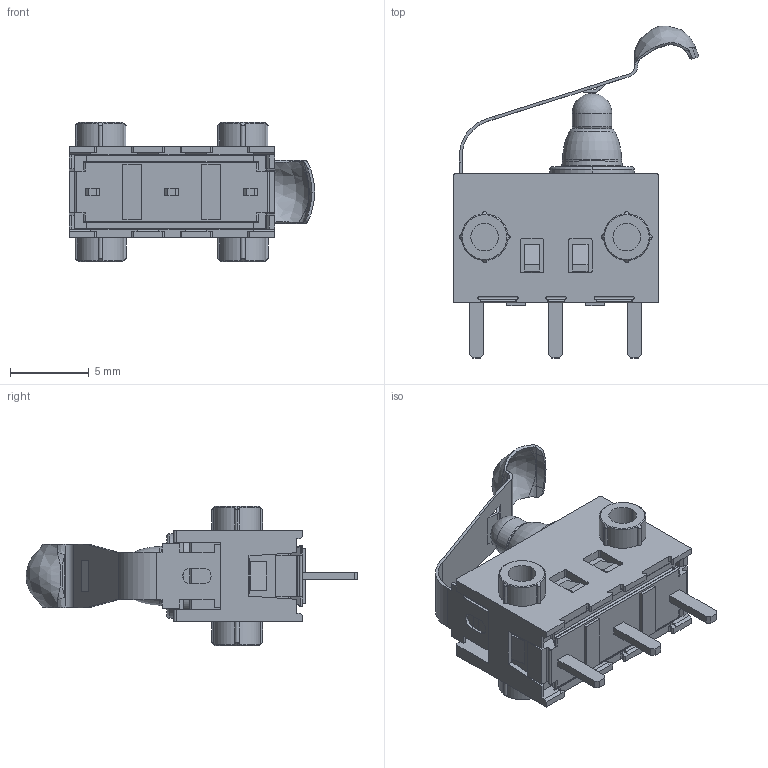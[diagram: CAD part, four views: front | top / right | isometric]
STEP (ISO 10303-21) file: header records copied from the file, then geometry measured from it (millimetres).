
FILE_DESCRIPTION (( 'STEP AP214' ), '1' );
FILE_NAME ('SPVQ371000.STEP', '2011-03-22T04:18:22', ( '' ), ( '' ), 'SwSTEP 2.0', 'SolidWorks 2007', '' );
FILE_SCHEMA (( 'AUTOMOTIVE_DESIGN' ));
Length unit declared in the file: millimetre
Products named in the file (1): SPVQ371000
Bounding box: 15.54 x 21.02 x 8.8 mm (x, y, z)
Volume: 650.7 mm3; surface area: 1289.1 mm2
Topology: 1 solids, 1 shells, 518 faces, 1465 edges, 952 vertices
Faces by surface type: plane 296, cylinder 174, torus 18, bspline 16, cone 12, sphere 2
Entity records: 23296 total; most frequent: CARTESIAN_POINT 4097, ORIENTED_EDGE 2922, DIRECTION 2712, EDGE_CURVE 1461, VECTOR 990, LINE 990, VERTEX_POINT 950, AXIS2_PLACEMENT_3D 861
